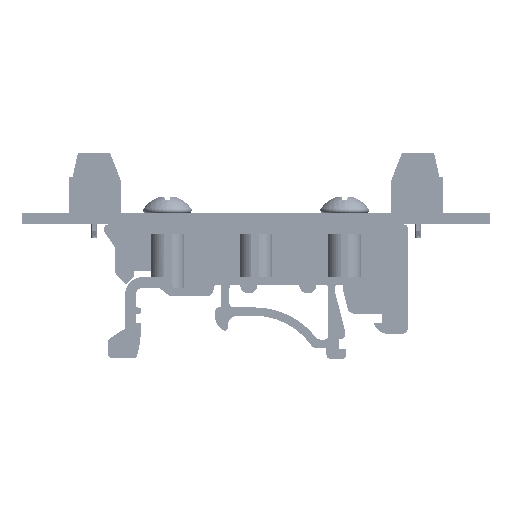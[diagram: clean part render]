
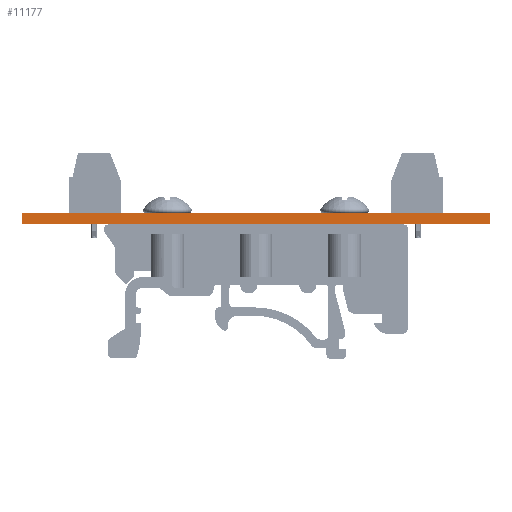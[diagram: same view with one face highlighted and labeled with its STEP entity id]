
A CAD part, front view. The second image highlights one B-rep face of the part: STEP entity #11177.
In plain terms, the highlighted planar face has unit normal (0, -1, 0).
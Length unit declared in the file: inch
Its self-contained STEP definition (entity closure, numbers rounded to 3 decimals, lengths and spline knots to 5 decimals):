
#6672 = EDGE_CURVE ( 'NONE', #173341, #162592, #211406, .T. ) ;
#9241 = DIRECTION ( 'NONE',  ( 0., 1., 0. ) ) ;
#11177 = ADVANCED_FACE ( 'NONE', ( #161920 ), #45389, .F. ) ;
#16456 = VECTOR ( 'NONE', #190028, 39.37008 ) ;
#18508 = ORIENTED_EDGE ( 'NONE', *, *, #41041, .F. ) ;
#22585 = CARTESIAN_POINT ( 'NONE',  ( 2.5, 1.3, 0. ) ) ;
#36786 = CARTESIAN_POINT ( 'NONE',  ( 2.5, 1.3, 0.0625 ) ) ;
#40198 = CARTESIAN_POINT ( 'NONE',  ( 5.1, 1.3, 0. ) ) ;
#41041 = EDGE_CURVE ( 'NONE', #155099, #43074, #165597, .T. ) ;
#43074 = VERTEX_POINT ( 'NONE', #155313 ) ;
#43708 = VECTOR ( 'NONE', #53379, 39.37008 ) ;
#43902 = CARTESIAN_POINT ( 'NONE',  ( 0., 1.3, 0.0625 ) ) ;
#45389 = PLANE ( 'NONE',  #75211 ) ;
#49373 = ORIENTED_EDGE ( 'NONE', *, *, #68470, .F. ) ;
#53379 = DIRECTION ( 'NONE',  ( 0., 0., -1. ) ) ;
#59245 = EDGE_CURVE ( 'NONE', #155099, #173341, #59943, .T. ) ;
#59943 = LINE ( 'NONE', #36786, #43708 ) ;
#68470 = EDGE_CURVE ( 'NONE', #43074, #162592, #89642, .T. ) ;
#73345 = DIRECTION ( 'NONE',  ( 0., 0., -1. ) ) ;
#75211 = AXIS2_PLACEMENT_3D ( 'NONE', #43902, #9241, #115534 ) ;
#82597 = CARTESIAN_POINT ( 'NONE',  ( 0., 1.3, 0. ) ) ;
#88592 = EDGE_LOOP ( 'NONE', ( #162768, #49373, #18508, #101234 ) ) ;
#89642 = LINE ( 'NONE', #175480, #130288 ) ;
#101234 = ORIENTED_EDGE ( 'NONE', *, *, #59245, .T. ) ;
#115534 = DIRECTION ( 'NONE',  ( 0., 0., 1. ) ) ;
#130288 = VECTOR ( 'NONE', #73345, 39.37008 ) ;
#130398 = VECTOR ( 'NONE', #190767, 39.37008 ) ;
#155099 = VERTEX_POINT ( 'NONE', #177247 ) ;
#155313 = CARTESIAN_POINT ( 'NONE',  ( 5.1, 1.3, 0.0625 ) ) ;
#161920 = FACE_OUTER_BOUND ( 'NONE', #88592, .T. ) ;
#162592 = VERTEX_POINT ( 'NONE', #40198 ) ;
#162768 = ORIENTED_EDGE ( 'NONE', *, *, #6672, .T. ) ;
#165597 = LINE ( 'NONE', #206014, #130398 ) ;
#173341 = VERTEX_POINT ( 'NONE', #22585 ) ;
#175480 = CARTESIAN_POINT ( 'NONE',  ( 5.1, 1.3, 0.0625 ) ) ;
#177247 = CARTESIAN_POINT ( 'NONE',  ( 2.5, 1.3, 0.0625 ) ) ;
#190028 = DIRECTION ( 'NONE',  ( 1., 0., 0. ) ) ;
#190767 = DIRECTION ( 'NONE',  ( 1., 0., 0. ) ) ;
#206014 = CARTESIAN_POINT ( 'NONE',  ( 0., 1.3, 0.0625 ) ) ;
#211406 = LINE ( 'NONE', #82597, #16456 ) ;
